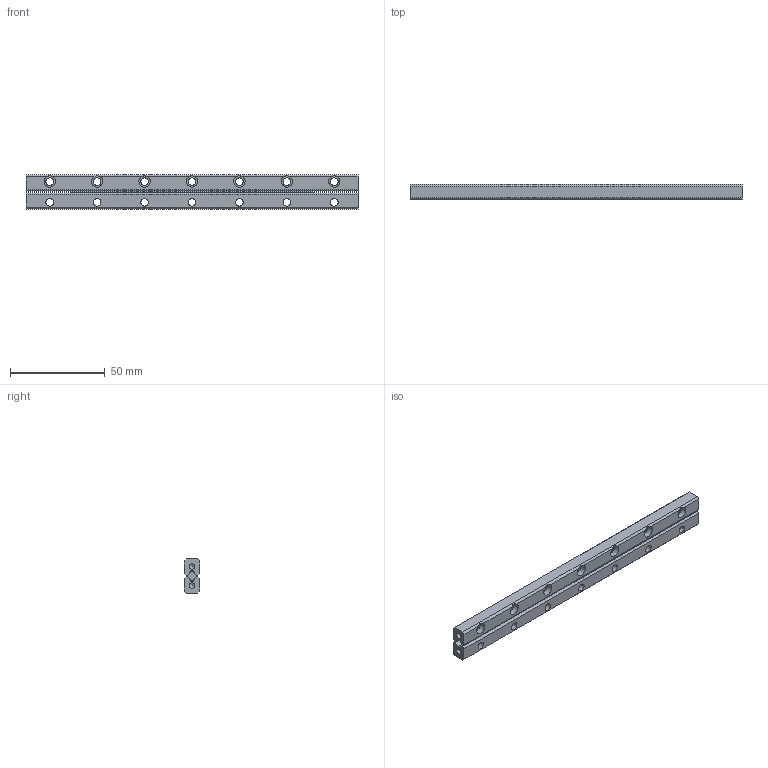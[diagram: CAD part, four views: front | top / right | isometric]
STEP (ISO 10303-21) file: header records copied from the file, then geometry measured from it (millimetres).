
FILE_DESCRIPTION((''),'2;1');
FILE_NAME('D:\製品 (図面)\カタログ用3D\リニアガイド関連\STEP形式\ACS3\ACS3175.stp','2010-07-29T15:35:10',('Tsuchiya'),(''),'Autodesk Inventor 10','Autodesk Inventor 10','');
FILE_SCHEMA(('AUTOMOTIVE_DESIGN { 1 0 10303 214 1 1 1 1 }'));
Length unit declared in the file: millimetre
Products named in the file (4): ACS3175; ACS31751; ACS31752; ACS31753
Assembly tree (3 placements, depth 2):
  ACS3175
    ACS31751
    ACS31752
    ACS31753
Bounding box: 175 x 8 x 18 mm (x, y, z)
Volume: 20832.1 mm3; surface area: 15733.1 mm2
Topology: 3 solids, 3 shells, 104 faces, 280 edges, 186 vertices
Faces by surface type: plane 52, bspline 46, cylinder 4, cone 2
Full cylindrical faces by diameter (mm): 3 x2
Entity records: 3485 total; most frequent: CARTESIAN_POINT 1087, ORIENTED_EDGE 448, DIRECTION 436, EDGE_CURVE 224, EDGE_LOOP 172, VERTEX_POINT 166, AXIS2_PLACEMENT_3D 147, VECTOR 142
